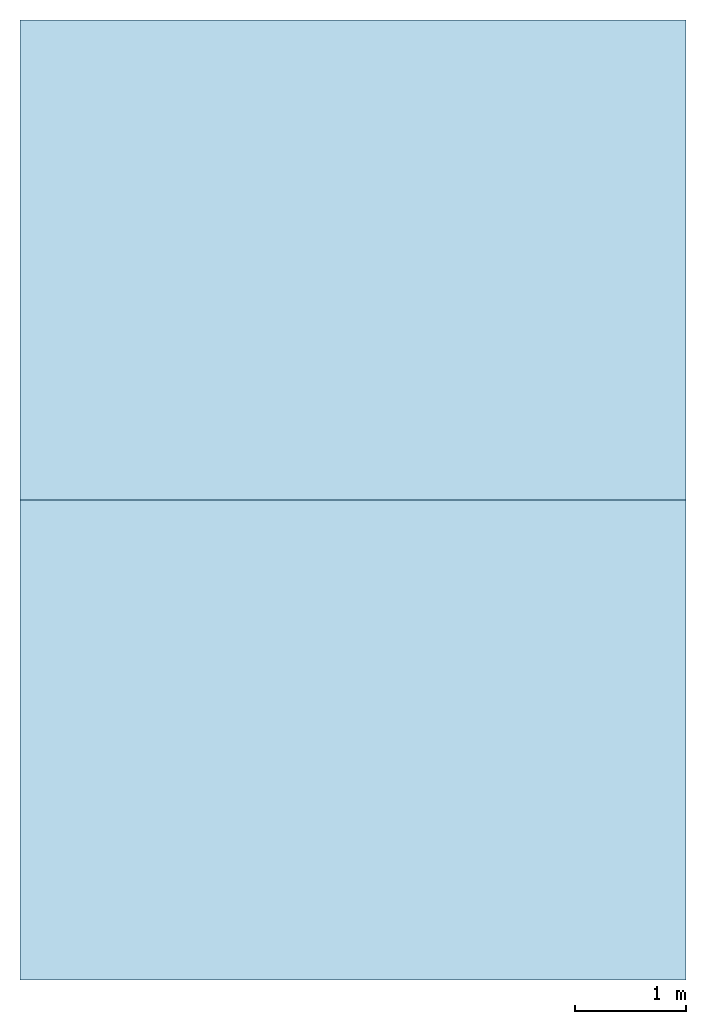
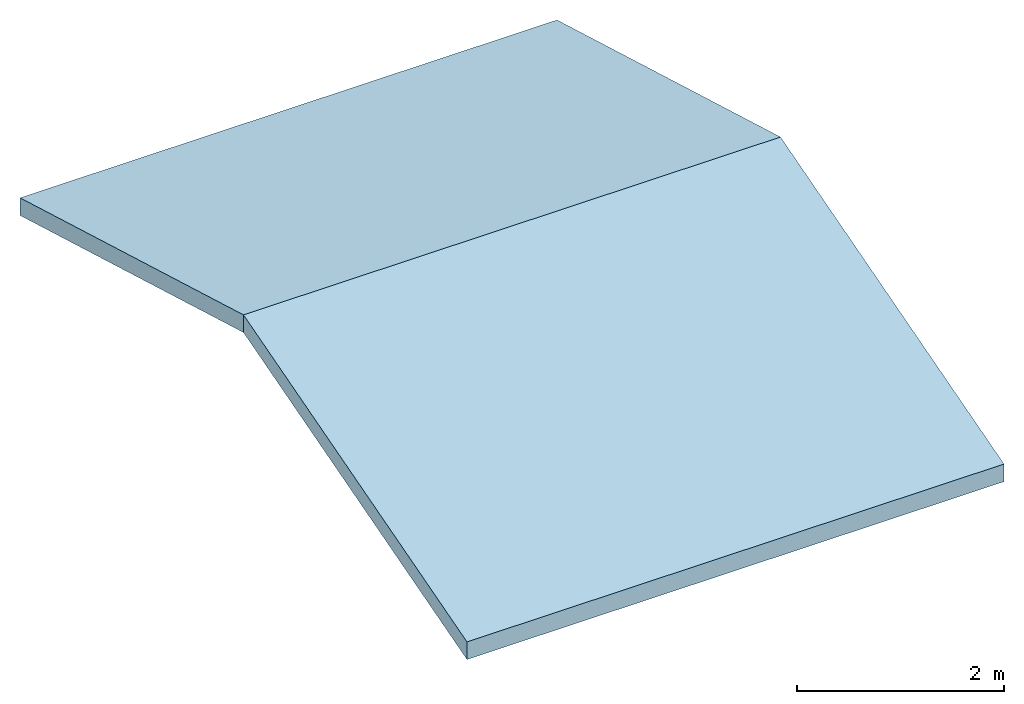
# One storey: 2 slabs, 1 element without a shape of its own.
"""IFC2X3 building model written with IfcOpenShell, lengths in metres."""

from ifc_helpers import new_model, entity, si_unit, converted_unit, derived_unit, direction, frame, frame_2d, origin, place, context, subcontext, project, spatial, rectangle, extrude, material, layer, layer_set, element, aggregate, save


model = new_model("IFC2X3")

# Units and contexts
model_context = context("Model", 3, precision=1e-05, world=origin(), true_north=direction((6.12303176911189e-17, 1.0)))
context_of_model = context(None, 3, precision=1e-05, world=origin(), true_north=direction((6.12303176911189e-17, 1.0)))
body_context = subcontext(model_context, "Body", "Model", "MODEL_VIEW")
ifc_project = project(units=[si_unit("LENGTHUNIT", "METRE"), si_unit("AREAUNIT", "SQUARE_METRE"), si_unit("VOLUMEUNIT", "CUBIC_METRE"), converted_unit("PLANEANGLEUNIT", "DEGREE", entity("IfcRatioMeasure", 0.0174532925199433), si_unit("PLANEANGLEUNIT", "RADIAN"), dimensions=[0, 0, 0, 0, 0, 0, 0]), si_unit("MASSUNIT", "GRAM", prefix="KILO"), si_unit("TIMEUNIT", "SECOND"), si_unit("FREQUENCYUNIT", "HERTZ"), si_unit("THERMODYNAMICTEMPERATUREUNIT", "DEGREE_CELSIUS"), derived_unit("THERMALTRANSMITTANCEUNIT", [(si_unit("MASSUNIT", "GRAM", prefix="KILO"), 1), (si_unit("THERMODYNAMICTEMPERATUREUNIT", "KELVIN"), -1), (si_unit("TIMEUNIT", "SECOND"), -3)]), derived_unit("VOLUMETRICFLOWRATEUNIT", [(si_unit("LENGTHUNIT", "METRE"), 3), (si_unit("TIMEUNIT", "SECOND"), -1)]), si_unit("ELECTRICCURRENTUNIT", "AMPERE"), si_unit("ELECTRICVOLTAGEUNIT", "VOLT"), si_unit("POWERUNIT", "WATT"), si_unit("FORCEUNIT", "NEWTON", prefix="KILO"), si_unit("ILLUMINANCEUNIT", "LUX"), si_unit("LUMINOUSFLUXUNIT", "LUMEN"), si_unit("LUMINOUSINTENSITYUNIT", "CANDELA"), si_unit("PRESSUREUNIT", "PASCAL")], contexts=[model_context, context_of_model])

# Site, building, storey
site_placement = place(None, origin())
site = spatial("IfcSite", under=ifc_project, at=site_placement, Name="Surface", CompositionType="ELEMENT")
building_placement = place(site_placement, origin())
building = spatial("IfcBuilding", under=site, at=building_placement, CompositionType="ELEMENT")
storey_placement = place(building_placement, frame((0.0, 0.0, 5.04)))
storey = spatial("IfcBuildingStorey", under=building, at=storey_placement, Name="Niveau 2", CompositionType="ELEMENT", Elevation=5.04)

# Roof, slabs
roof_placement = place(storey_placement, frame((-8.79909160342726, -7.55858265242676, -0.0573490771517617)))
roof = element("IfcRoof", 1, at=roof_placement, inside=storey, Name="Toit de base:Toit - 200 mm", ObjectType="Toit de base:Toit - 200 mm", ShapeType="NOTDEFINED")
ifc_material = material(Name="Toit par défaut")
ifc_layer = layer(ifc_material, 0.2)
ifc_layer_set = layer_set([ifc_layer], Name="Toit de base:Toit - 200 mm")
slab_1_placement = place(roof_placement, origin())
slab_1 = element("IfcSlab", 2, at=slab_1_placement, material=ifc_layer_set, Name="Toit de base:Toit - 200 mm", ObjectType="Toit de base:Toit - 200 mm", PredefinedType="ROOF", context=body_context, shape_type="SweptSolid", body=[
    extrude(rectangle(XDim=6.0, YDim=4.49929506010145, at=frame_2d((6.66133814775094e-16, 0.0), x_axis=(1.0, 0.0))), frame((3.0, 6.4875, 0.620086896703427), z_axis=(0.0, 0.275637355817, 0.961261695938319), x_axis=(1.0, 0.0, 0.0)), (0.0, -0.275637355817, 0.961261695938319), 0.208059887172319),
])
slab_2_placement = place(roof_placement, origin())
slab_2 = element("IfcSlab", 3, at=slab_2_placement, material=ifc_layer_set, Name="Toit de base:Toit - 200 mm", ObjectType="Toit de base:Toit - 200 mm", PredefinedType="ROOF", context=body_context, shape_type="SweptSolid", body=[
    extrude(rectangle(XDim=4.49929506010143, YDim=6.0, at=frame_2d((-6.66133814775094e-16, 4.44089209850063e-16), x_axis=(0.0, 1.0))), frame((3.0, 2.1625, 0.620086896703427), z_axis=(0.0, -0.275637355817, 0.961261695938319), x_axis=(1.0, 0.0, 0.0)), (0.0, 0.275637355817, 0.961261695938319), 0.208059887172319),
])
aggregate(roof, [slab_1, slab_2])

save(model, "model.ifc")
